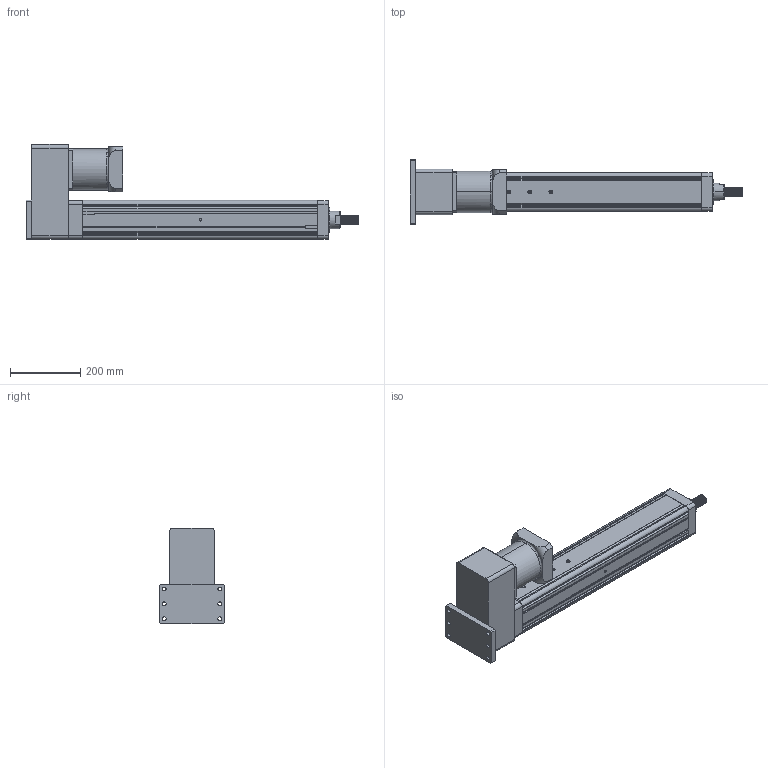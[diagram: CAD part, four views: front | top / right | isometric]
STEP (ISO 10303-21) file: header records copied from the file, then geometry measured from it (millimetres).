
FILE_DESCRIPTION (( 'STEP AP203' ), '1' );
FILE_NAME ('YRJ110-L500-H4K1.STEP', '2020-01-06T01:54:55', ( 'User' ), ( 'China' ), 'SwSTEP 2.0', 'SolidWorks 2016', '' );
FILE_SCHEMA (( 'CONFIG_CONTROL_DESIGN' ));
Length unit declared in the file: millimetre
Products named in the file (8): 120遺1500W珨撰熬厒儂; K1-110; YRJ110-L500-H4K1; 095-100俴最倰第; H5-110-1; 萇儂碟-110; H3-110-2; H4-110
Assembly tree (7 placements, depth 2):
  YRJ110-L500-H4K1
    095-100俴最倰第
    H5-110-1
    萇儂碟-110
    H3-110-2
    H4-110
    120遺1500W珨撰熬厒儂
    K1-110
Bounding box: 947 x 185 x 271 mm (x, y, z)
Volume: 9478533.8 mm3; surface area: 1005724.9 mm2
Topology: 7 solids, 7 shells, 373 faces, 1016 edges, 652 vertices
Faces by surface type: cylinder 168, plane 163, cone 29, bspline 8, torus 5
Entity records: 20627 total; most frequent: CARTESIAN_POINT 10508, ORIENTED_EDGE 2000, DIRECTION 1881, EDGE_CURVE 1000, VERTEX_POINT 652, AXIS2_PLACEMENT_3D 649, VECTOR 583, LINE 583
